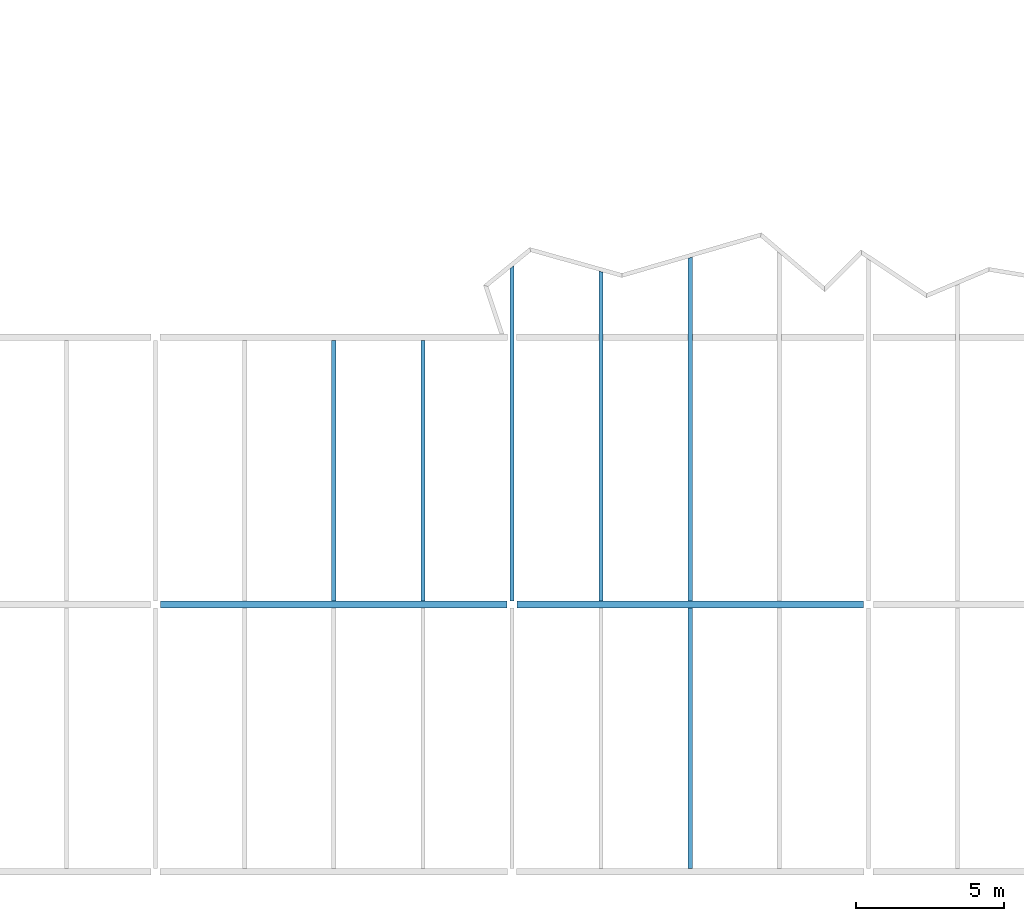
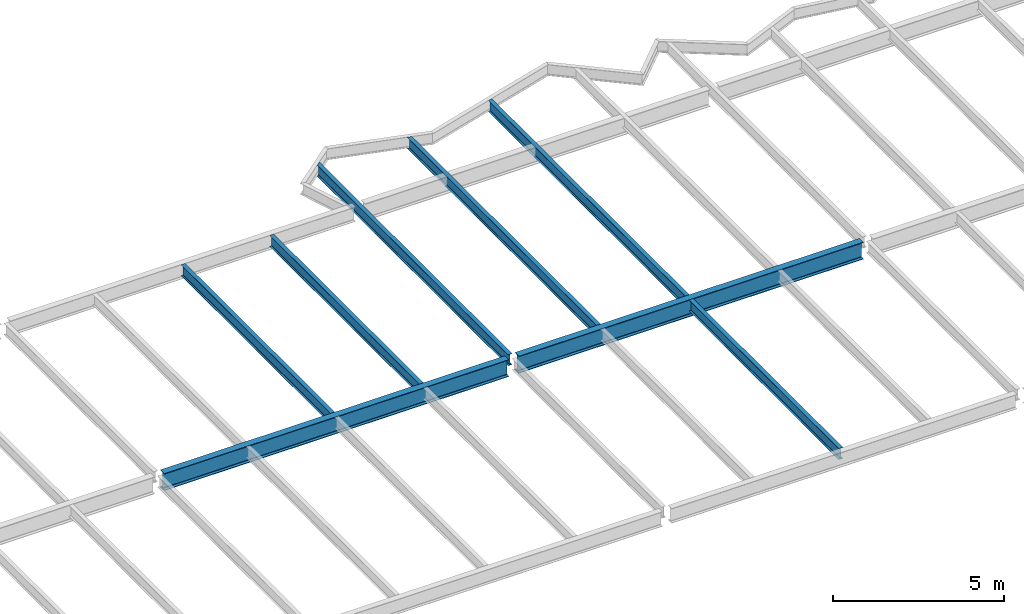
# One storey, part 16 of 21: 8 beams.
"""IFC2X3 building model written with IfcOpenShell, lengths in millimetres."""

from ifc_helpers import new_model, si_unit, origin, place, context, project, spatial, faceted_brep, material, element, save


model = new_model("IFC2X3")

# Units and contexts
context_of_model = context(None, 3, precision=1e-05, world=origin())
ifc_project = project(units=[si_unit("LENGTHUNIT", "METRE", prefix="MILLI")], contexts=[context_of_model])

# Building, storey
building = spatial("IfcBuilding", under=ifc_project, Name="Building", CompositionType="ELEMENT")
storey = spatial("IfcBuildingStorey", under=building, Name="FL3-FRM", CompositionType="ELEMENT")

# Beams
ifc_material_1 = material(Name="A992")
beam_1_placement = place(None, origin())
element("IfcBeam", 1, at=beam_1_placement, inside=storey, material=ifc_material_1, Name="B472", context=context_of_model, shape_type="Brep", body=[
    faceted_brep([(53930.0, 26895.5, 8474.0), (54070.0, 26895.5, 8474.0), (54070.0, 18114.5, 8474.0), (53930.0, 18114.5, 8474.0), (54070.0, 26895.5, 8482.8), (54070.0, 18114.5, 8482.8), (54013.4, 26895.5, 8482.8), (54013.4, 18114.5, 8482.8), (54010.8, 26895.5, 8483.15), (54010.8, 18114.5, 8483.15), (54008.3, 26895.5, 8484.17), (54008.3, 18114.5, 8484.17), (54006.2, 26895.5, 8485.79), (54006.2, 18114.5, 8485.79), (54004.6, 26895.5, 8487.9), (54004.6, 18114.5, 8487.9), (54003.5, 26895.5, 8490.36), (54003.5, 18114.5, 8490.36), (54003.2, 26895.5, 8493.0), (54003.2, 18114.5, 8493.0), (54003.2, 26895.5, 8854.0), (54003.2, 18114.5, 8854.0), (54003.5, 26895.5, 8856.64), (54003.5, 18114.5, 8856.64), (54004.6, 26895.5, 8859.1), (54004.6, 18114.5, 8859.1), (54006.2, 26895.5, 8861.21), (54006.2, 18114.5, 8861.21), (54008.3, 26895.5, 8862.83), (54008.3, 18114.5, 8862.83), (54010.8, 26895.5, 8863.85), (54010.8, 18114.5, 8863.85), (54013.4, 26895.5, 8864.2), (54013.4, 18114.5, 8864.2), (54070.0, 26895.5, 8864.2), (54070.0, 18114.5, 8864.2), (54070.0, 26895.5, 8873.0), (54070.0, 18114.5, 8873.0), (53930.0, 26895.5, 8873.0), (53930.0, 18114.5, 8873.0), (53930.0, 26895.5, 8864.2), (53930.0, 18114.5, 8864.2), (53986.6, 26895.5, 8864.2), (53986.6, 18114.5, 8864.2), (53989.2, 26895.5, 8863.85), (53989.2, 18114.5, 8863.85), (53991.7, 26895.5, 8862.83), (53991.7, 18114.5, 8862.83), (53993.8, 26895.5, 8861.21), (53993.8, 18114.5, 8861.21), (53995.4, 26895.5, 8859.1), (53995.4, 18114.5, 8859.1), (53996.5, 26895.5, 8856.64), (53996.5, 18114.5, 8856.64), (53996.8, 26895.5, 8854.0), (53996.8, 18114.5, 8854.0), (53996.8, 26895.5, 8493.0), (53996.8, 18114.5, 8493.0), (53996.5, 26895.5, 8490.36), (53996.5, 18114.5, 8490.36), (53995.4, 26895.5, 8487.9), (53995.4, 18114.5, 8487.9), (53993.8, 26895.5, 8485.79), (53993.8, 18114.5, 8485.79), (53991.7, 26895.5, 8484.17), (53991.7, 18114.5, 8484.17), (53989.2, 26895.5, 8483.15), (53989.2, 18114.5, 8483.15), (53986.6, 26895.5, 8482.8), (53986.6, 18114.5, 8482.8), (53930.0, 26895.5, 8482.8), (53930.0, 18114.5, 8482.8)], [[[0, 1, 2, 3]], [[1, 4, 5, 2]], [[4, 6, 7, 5]], [[6, 8, 9, 7]], [[8, 10, 11, 9]], [[10, 12, 13, 11]], [[12, 14, 15, 13]], [[14, 16, 17, 15]], [[16, 18, 19, 17]], [[18, 20, 21, 19]], [[20, 22, 23, 21]], [[22, 24, 25, 23]], [[24, 26, 27, 25]], [[26, 28, 29, 27]], [[28, 30, 31, 29]], [[30, 32, 33, 31]], [[32, 34, 35, 33]], [[34, 36, 37, 35]], [[36, 38, 39, 37]], [[38, 40, 41, 39]], [[40, 42, 43, 41]], [[42, 44, 45, 43]], [[44, 46, 47, 45]], [[46, 48, 49, 47]], [[48, 50, 51, 49]], [[50, 52, 53, 51]], [[52, 54, 55, 53]], [[54, 56, 57, 55]], [[56, 58, 59, 57]], [[58, 60, 61, 59]], [[60, 62, 63, 61]], [[62, 64, 65, 63]], [[64, 66, 67, 65]], [[66, 68, 69, 67]], [[68, 70, 71, 69]], [[70, 0, 3, 71]], [[0, 70, 68, 66, 64, 62, 60, 58, 56, 54, 52, 50, 48, 46, 44, 42, 40, 38, 36, 34, 32, 30, 28, 26, 24, 22, 20, 18, 16, 14, 12, 10, 8, 6, 4, 1]], [[3, 2, 5, 7, 9, 11, 13, 15, 17, 19, 21, 23, 25, 27, 29, 31, 33, 35, 37, 39, 41, 43, 45, 47, 49, 51, 53, 55, 57, 59, 61, 63, 65, 67, 69, 71]]]),
])
ifc_material_2 = material(Name="A992")
beam_2_placement = place(None, origin())
element("IfcBeam", 2, at=beam_2_placement, inside=storey, material=ifc_material_2, Name="B473", context=context_of_model, shape_type="Brep", body=[
    faceted_brep([(56930.0, 26895.5, 8474.0), (57070.0, 26895.5, 8474.0), (57070.0, 18114.5, 8474.0), (56930.0, 18114.5, 8474.0), (57070.0, 26895.5, 8482.8), (57070.0, 18114.5, 8482.8), (57013.4, 26895.5, 8482.8), (57013.4, 18114.5, 8482.8), (57010.8, 26895.5, 8483.15), (57010.8, 18114.5, 8483.15), (57008.3, 26895.5, 8484.17), (57008.3, 18114.5, 8484.17), (57006.2, 26895.5, 8485.79), (57006.2, 18114.5, 8485.79), (57004.6, 26895.5, 8487.9), (57004.6, 18114.5, 8487.9), (57003.5, 26895.5, 8490.36), (57003.5, 18114.5, 8490.36), (57003.2, 26895.5, 8493.0), (57003.2, 18114.5, 8493.0), (57003.2, 26895.5, 8854.0), (57003.2, 18114.5, 8854.0), (57003.5, 26895.5, 8856.64), (57003.5, 18114.5, 8856.64), (57004.6, 26895.5, 8859.1), (57004.6, 18114.5, 8859.1), (57006.2, 26895.5, 8861.21), (57006.2, 18114.5, 8861.21), (57008.3, 26895.5, 8862.83), (57008.3, 18114.5, 8862.83), (57010.8, 26895.5, 8863.85), (57010.8, 18114.5, 8863.85), (57013.4, 26895.5, 8864.2), (57013.4, 18114.5, 8864.2), (57070.0, 26895.5, 8864.2), (57070.0, 18114.5, 8864.2), (57070.0, 26895.5, 8873.0), (57070.0, 18114.5, 8873.0), (56930.0, 26895.5, 8873.0), (56930.0, 18114.5, 8873.0), (56930.0, 26895.5, 8864.2), (56930.0, 18114.5, 8864.2), (56986.6, 26895.5, 8864.2), (56986.6, 18114.5, 8864.2), (56989.2, 26895.5, 8863.85), (56989.2, 18114.5, 8863.85), (56991.7, 26895.5, 8862.83), (56991.7, 18114.5, 8862.83), (56993.8, 26895.5, 8861.21), (56993.8, 18114.5, 8861.21), (56995.4, 26895.5, 8859.1), (56995.4, 18114.5, 8859.1), (56996.5, 26895.5, 8856.64), (56996.5, 18114.5, 8856.64), (56996.8, 26895.5, 8854.0), (56996.8, 18114.5, 8854.0), (56996.8, 26895.5, 8493.0), (56996.8, 18114.5, 8493.0), (56996.5, 26895.5, 8490.36), (56996.5, 18114.5, 8490.36), (56995.4, 26895.5, 8487.9), (56995.4, 18114.5, 8487.9), (56993.8, 26895.5, 8485.79), (56993.8, 18114.5, 8485.79), (56991.7, 26895.5, 8484.17), (56991.7, 18114.5, 8484.17), (56989.2, 26895.5, 8483.15), (56989.2, 18114.5, 8483.15), (56986.6, 26895.5, 8482.8), (56986.6, 18114.5, 8482.8), (56930.0, 26895.5, 8482.8), (56930.0, 18114.5, 8482.8)], [[[0, 1, 2, 3]], [[1, 4, 5, 2]], [[4, 6, 7, 5]], [[6, 8, 9, 7]], [[8, 10, 11, 9]], [[10, 12, 13, 11]], [[12, 14, 15, 13]], [[14, 16, 17, 15]], [[16, 18, 19, 17]], [[18, 20, 21, 19]], [[20, 22, 23, 21]], [[22, 24, 25, 23]], [[24, 26, 27, 25]], [[26, 28, 29, 27]], [[28, 30, 31, 29]], [[30, 32, 33, 31]], [[32, 34, 35, 33]], [[34, 36, 37, 35]], [[36, 38, 39, 37]], [[38, 40, 41, 39]], [[40, 42, 43, 41]], [[42, 44, 45, 43]], [[44, 46, 47, 45]], [[46, 48, 49, 47]], [[48, 50, 51, 49]], [[50, 52, 53, 51]], [[52, 54, 55, 53]], [[54, 56, 57, 55]], [[56, 58, 59, 57]], [[58, 60, 61, 59]], [[60, 62, 63, 61]], [[62, 64, 65, 63]], [[64, 66, 67, 65]], [[66, 68, 69, 67]], [[68, 70, 71, 69]], [[70, 0, 3, 71]], [[0, 70, 68, 66, 64, 62, 60, 58, 56, 54, 52, 50, 48, 46, 44, 42, 40, 38, 36, 34, 32, 30, 28, 26, 24, 22, 20, 18, 16, 14, 12, 10, 8, 6, 4, 1]], [[3, 2, 5, 7, 9, 11, 13, 15, 17, 19, 21, 23, 25, 27, 29, 31, 33, 35, 37, 39, 41, 43, 45, 47, 49, 51, 53, 55, 57, 59, 61, 63, 65, 67, 69, 71]]]),
])
ifc_material_3 = material(Name="A992")
beam_3_placement = place(None, origin())
element("IfcBeam", 3, at=beam_3_placement, inside=storey, material=ifc_material_3, Name="Column478", context=context_of_model, shape_type="Brep", body=[
    faceted_brep([(48166.5, 17885.5, 8261.0), (48166.5, 18114.5, 8261.0), (59833.5, 18114.5, 8261.0), (59833.5, 17885.5, 8261.0), (48166.5, 18114.5, 8280.6), (59833.5, 18114.5, 8280.6), (48166.5, 18018.6, 8280.6), (59833.5, 18018.6, 8280.6), (48166.5, 18015.4, 8281.03), (59833.5, 18015.4, 8281.03), (48166.5, 18012.3, 8282.3), (59833.5, 18012.3, 8282.3), (48166.5, 18009.7, 8284.32), (59833.5, 18009.7, 8284.32), (48166.5, 18007.7, 8286.95), (59833.5, 18007.7, 8286.95), (48166.5, 18006.4, 8290.01), (59833.5, 18006.4, 8290.01), (48166.5, 18005.9, 8293.3), (59833.5, 18005.9, 8293.3), (48166.5, 18005.9, 8840.7), (59833.5, 18005.9, 8840.7), (48166.5, 18006.4, 8843.99), (59833.5, 18006.4, 8843.99), (48166.5, 18007.7, 8847.05), (59833.5, 18007.7, 8847.05), (48166.5, 18009.7, 8849.68), (59833.5, 18009.7, 8849.68), (48166.5, 18012.3, 8851.7), (59833.5, 18012.3, 8851.7), (48166.5, 18015.4, 8852.97), (59833.5, 18015.4, 8852.97), (48166.5, 18018.6, 8853.4), (59833.5, 18018.6, 8853.4), (48166.5, 18114.5, 8853.4), (59833.5, 18114.5, 8853.4), (48166.5, 18114.5, 8873.0), (59833.5, 18114.5, 8873.0), (48166.5, 17885.5, 8873.0), (59833.5, 17885.5, 8873.0), (48166.5, 17885.5, 8853.4), (59833.5, 17885.5, 8853.4), (48166.5, 17981.4, 8853.4), (59833.5, 17981.4, 8853.4), (48166.5, 17984.6, 8852.97), (59833.5, 17984.6, 8852.97), (48166.5, 17987.7, 8851.7), (59833.5, 17987.7, 8851.7), (48166.5, 17990.3, 8849.68), (59833.5, 17990.3, 8849.68), (48166.5, 17992.3, 8847.05), (59833.5, 17992.3, 8847.05), (48166.5, 17993.6, 8843.99), (59833.5, 17993.6, 8843.99), (48166.5, 17994.1, 8840.7), (59833.5, 17994.1, 8840.7), (48166.5, 17994.1, 8293.3), (59833.5, 17994.1, 8293.3), (48166.5, 17993.6, 8290.01), (59833.5, 17993.6, 8290.01), (48166.5, 17992.3, 8286.95), (59833.5, 17992.3, 8286.95), (48166.5, 17990.3, 8284.32), (59833.5, 17990.3, 8284.32), (48166.5, 17987.7, 8282.3), (59833.5, 17987.7, 8282.3), (48166.5, 17984.6, 8281.03), (59833.5, 17984.6, 8281.03), (48166.5, 17981.4, 8280.6), (59833.5, 17981.4, 8280.6), (48166.5, 17885.5, 8280.6), (59833.5, 17885.5, 8280.6)], [[[0, 1, 2, 3]], [[1, 4, 5, 2]], [[4, 6, 7, 5]], [[6, 8, 9, 7]], [[8, 10, 11, 9]], [[10, 12, 13, 11]], [[12, 14, 15, 13]], [[14, 16, 17, 15]], [[16, 18, 19, 17]], [[18, 20, 21, 19]], [[20, 22, 23, 21]], [[22, 24, 25, 23]], [[24, 26, 27, 25]], [[26, 28, 29, 27]], [[28, 30, 31, 29]], [[30, 32, 33, 31]], [[32, 34, 35, 33]], [[34, 36, 37, 35]], [[36, 38, 39, 37]], [[38, 40, 41, 39]], [[40, 42, 43, 41]], [[42, 44, 45, 43]], [[44, 46, 47, 45]], [[46, 48, 49, 47]], [[48, 50, 51, 49]], [[50, 52, 53, 51]], [[52, 54, 55, 53]], [[54, 56, 57, 55]], [[56, 58, 59, 57]], [[58, 60, 61, 59]], [[60, 62, 63, 61]], [[62, 64, 65, 63]], [[64, 66, 67, 65]], [[66, 68, 69, 67]], [[68, 70, 71, 69]], [[70, 0, 3, 71]], [[0, 70, 68, 66, 64, 62, 60, 58, 56, 54, 52, 50, 48, 46, 44, 42, 40, 38, 36, 34, 32, 30, 28, 26, 24, 22, 20, 18, 16, 14, 12, 10, 8, 6, 4, 1]], [[3, 2, 5, 7, 9, 11, 13, 15, 17, 19, 21, 23, 25, 27, 29, 31, 33, 35, 37, 39, 41, 43, 45, 47, 49, 51, 53, 55, 57, 59, 61, 63, 65, 67, 69, 71]]]),
])
ifc_material_4 = material(Name="A992")
beam_4_placement = place(None, origin())
element("IfcBeam", 4, at=beam_4_placement, inside=storey, material=ifc_material_4, Name="B484", context=context_of_model, shape_type="Brep", body=[
    faceted_brep([(66070.0, 9104.5, 8474.0), (65930.0, 9104.5, 8474.0), (65930.0, 17885.5, 8474.0), (66070.0, 17885.5, 8474.0), (65930.0, 9104.5, 8482.8), (65930.0, 17885.5, 8482.8), (65986.6, 9104.5, 8482.8), (65986.6, 17885.5, 8482.8), (65989.2, 9104.5, 8483.15), (65989.2, 17885.5, 8483.15), (65991.7, 9104.5, 8484.17), (65991.7, 17885.5, 8484.17), (65993.8, 9104.5, 8485.79), (65993.8, 17885.5, 8485.79), (65995.4, 9104.5, 8487.9), (65995.4, 17885.5, 8487.9), (65996.5, 9104.5, 8490.36), (65996.5, 17885.5, 8490.36), (65996.8, 9104.5, 8493.0), (65996.8, 17885.5, 8493.0), (65996.8, 9104.5, 8854.0), (65996.8, 17885.5, 8854.0), (65996.5, 9104.5, 8856.64), (65996.5, 17885.5, 8856.64), (65995.4, 9104.5, 8859.1), (65995.4, 17885.5, 8859.1), (65993.8, 9104.5, 8861.21), (65993.8, 17885.5, 8861.21), (65991.7, 9104.5, 8862.83), (65991.7, 17885.5, 8862.83), (65989.2, 9104.5, 8863.85), (65989.2, 17885.5, 8863.85), (65986.6, 9104.5, 8864.2), (65986.6, 17885.5, 8864.2), (65930.0, 9104.5, 8864.2), (65930.0, 17885.5, 8864.2), (65930.0, 9104.5, 8873.0), (65930.0, 17885.5, 8873.0), (66070.0, 9104.5, 8873.0), (66070.0, 17885.5, 8873.0), (66070.0, 9104.5, 8864.2), (66070.0, 17885.5, 8864.2), (66013.4, 9104.5, 8864.2), (66013.4, 17885.5, 8864.2), (66010.8, 9104.5, 8863.85), (66010.8, 17885.5, 8863.85), (66008.3, 9104.5, 8862.83), (66008.3, 17885.5, 8862.83), (66006.2, 9104.5, 8861.21), (66006.2, 17885.5, 8861.21), (66004.6, 9104.5, 8859.1), (66004.6, 17885.5, 8859.1), (66003.5, 9104.5, 8856.64), (66003.5, 17885.5, 8856.64), (66003.2, 9104.5, 8854.0), (66003.2, 17885.5, 8854.0), (66003.2, 9104.5, 8493.0), (66003.2, 17885.5, 8493.0), (66003.5, 9104.5, 8490.36), (66003.5, 17885.5, 8490.36), (66004.6, 9104.5, 8487.9), (66004.6, 17885.5, 8487.9), (66006.2, 9104.5, 8485.79), (66006.2, 17885.5, 8485.79), (66008.3, 9104.5, 8484.17), (66008.3, 17885.5, 8484.17), (66010.8, 9104.5, 8483.15), (66010.8, 17885.5, 8483.15), (66013.4, 9104.5, 8482.8), (66013.4, 17885.5, 8482.8), (66070.0, 9104.5, 8482.8), (66070.0, 17885.5, 8482.8)], [[[0, 1, 2, 3]], [[1, 4, 5, 2]], [[4, 6, 7, 5]], [[6, 8, 9, 7]], [[8, 10, 11, 9]], [[10, 12, 13, 11]], [[12, 14, 15, 13]], [[14, 16, 17, 15]], [[16, 18, 19, 17]], [[18, 20, 21, 19]], [[20, 22, 23, 21]], [[22, 24, 25, 23]], [[24, 26, 27, 25]], [[26, 28, 29, 27]], [[28, 30, 31, 29]], [[30, 32, 33, 31]], [[32, 34, 35, 33]], [[34, 36, 37, 35]], [[36, 38, 39, 37]], [[38, 40, 41, 39]], [[40, 42, 43, 41]], [[42, 44, 45, 43]], [[44, 46, 47, 45]], [[46, 48, 49, 47]], [[48, 50, 51, 49]], [[50, 52, 53, 51]], [[52, 54, 55, 53]], [[54, 56, 57, 55]], [[56, 58, 59, 57]], [[58, 60, 61, 59]], [[60, 62, 63, 61]], [[62, 64, 65, 63]], [[64, 66, 67, 65]], [[66, 68, 69, 67]], [[68, 70, 71, 69]], [[70, 0, 3, 71]], [[0, 70, 68, 66, 64, 62, 60, 58, 56, 54, 52, 50, 48, 46, 44, 42, 40, 38, 36, 34, 32, 30, 28, 26, 24, 22, 20, 18, 16, 14, 12, 10, 8, 6, 4, 1]], [[3, 2, 5, 7, 9, 11, 13, 15, 17, 19, 21, 23, 25, 27, 29, 31, 33, 35, 37, 39, 41, 43, 45, 47, 49, 51, 53, 55, 57, 59, 61, 63, 65, 67, 69, 71]]]),
])
ifc_material_5 = material(Name="A992")
beam_5_placement = place(None, origin())
element("IfcBeam", 5, at=beam_5_placement, inside=storey, material=ifc_material_5, Name="Column481", context=context_of_model, shape_type="Brep", body=[
    faceted_brep([(60166.5, 17885.5, 8261.0), (60166.5, 18114.5, 8261.0), (71833.5, 18114.5, 8261.0), (71833.5, 17885.5, 8261.0), (60166.5, 18114.5, 8280.6), (71833.5, 18114.5, 8280.6), (60166.5, 18018.6, 8280.6), (71833.5, 18018.6, 8280.6), (60166.5, 18015.4, 8281.03), (71833.5, 18015.4, 8281.03), (60166.5, 18012.3, 8282.3), (71833.5, 18012.3, 8282.3), (60166.5, 18009.7, 8284.32), (71833.5, 18009.7, 8284.32), (60166.5, 18007.7, 8286.95), (71833.5, 18007.7, 8286.95), (60166.5, 18006.4, 8290.01), (71833.5, 18006.4, 8290.01), (60166.5, 18005.9, 8293.3), (71833.5, 18005.9, 8293.3), (60166.5, 18005.9, 8840.7), (71833.5, 18005.9, 8840.7), (60166.5, 18006.4, 8843.99), (71833.5, 18006.4, 8843.99), (60166.5, 18007.7, 8847.05), (71833.5, 18007.7, 8847.05), (60166.5, 18009.7, 8849.68), (71833.5, 18009.7, 8849.68), (60166.5, 18012.3, 8851.7), (71833.5, 18012.3, 8851.7), (60166.5, 18015.4, 8852.97), (71833.5, 18015.4, 8852.97), (60166.5, 18018.6, 8853.4), (71833.5, 18018.6, 8853.4), (60166.5, 18114.5, 8853.4), (71833.5, 18114.5, 8853.4), (60166.5, 18114.5, 8873.0), (71833.5, 18114.5, 8873.0), (60166.5, 17885.5, 8873.0), (71833.5, 17885.5, 8873.0), (60166.5, 17885.5, 8853.4), (71833.5, 17885.5, 8853.4), (60166.5, 17981.4, 8853.4), (71833.5, 17981.4, 8853.4), (60166.5, 17984.6, 8852.97), (71833.5, 17984.6, 8852.97), (60166.5, 17987.7, 8851.7), (71833.5, 17987.7, 8851.7), (60166.5, 17990.3, 8849.68), (71833.5, 17990.3, 8849.68), (60166.5, 17992.3, 8847.05), (71833.5, 17992.3, 8847.05), (60166.5, 17993.6, 8843.99), (71833.5, 17993.6, 8843.99), (60166.5, 17994.1, 8840.7), (71833.5, 17994.1, 8840.7), (60166.5, 17994.1, 8293.3), (71833.5, 17994.1, 8293.3), (60166.5, 17993.6, 8290.01), (71833.5, 17993.6, 8290.01), (60166.5, 17992.3, 8286.95), (71833.5, 17992.3, 8286.95), (60166.5, 17990.3, 8284.32), (71833.5, 17990.3, 8284.32), (60166.5, 17987.7, 8282.3), (71833.5, 17987.7, 8282.3), (60166.5, 17984.6, 8281.03), (71833.5, 17984.6, 8281.03), (60166.5, 17981.4, 8280.6), (71833.5, 17981.4, 8280.6), (60166.5, 17885.5, 8280.6), (71833.5, 17885.5, 8280.6)], [[[0, 1, 2, 3]], [[1, 4, 5, 2]], [[4, 6, 7, 5]], [[6, 8, 9, 7]], [[8, 10, 11, 9]], [[10, 12, 13, 11]], [[12, 14, 15, 13]], [[14, 16, 17, 15]], [[16, 18, 19, 17]], [[18, 20, 21, 19]], [[20, 22, 23, 21]], [[22, 24, 25, 23]], [[24, 26, 27, 25]], [[26, 28, 29, 27]], [[28, 30, 31, 29]], [[30, 32, 33, 31]], [[32, 34, 35, 33]], [[34, 36, 37, 35]], [[36, 38, 39, 37]], [[38, 40, 41, 39]], [[40, 42, 43, 41]], [[42, 44, 45, 43]], [[44, 46, 47, 45]], [[46, 48, 49, 47]], [[48, 50, 51, 49]], [[50, 52, 53, 51]], [[52, 54, 55, 53]], [[54, 56, 57, 55]], [[56, 58, 59, 57]], [[58, 60, 61, 59]], [[60, 62, 63, 61]], [[62, 64, 65, 63]], [[64, 66, 67, 65]], [[66, 68, 69, 67]], [[68, 70, 71, 69]], [[70, 0, 3, 71]], [[0, 70, 68, 66, 64, 62, 60, 58, 56, 54, 52, 50, 48, 46, 44, 42, 40, 38, 36, 34, 32, 30, 28, 26, 24, 22, 20, 18, 16, 14, 12, 10, 8, 6, 4, 1]], [[3, 2, 5, 7, 9, 11, 13, 15, 17, 19, 21, 23, 25, 27, 29, 31, 33, 35, 37, 39, 41, 43, 45, 47, 49, 51, 53, 55, 57, 59, 61, 63, 65, 67, 69, 71]]]),
])
ifc_material_6 = material(Name="A992")
beam_6_placement = place(None, origin())
element("IfcBeam", 6, at=beam_6_placement, inside=storey, material=ifc_material_6, Name="B1055", context=context_of_model, shape_type="Brep", body=[
    faceted_brep([(65930.0, 29656.7, 8474.0), (66070.0, 29697.5, 8474.0), (66070.0, 18114.5, 8474.0), (65930.0, 18114.5, 8474.0), (66070.0, 29697.5, 8482.8), (66070.0, 18114.5, 8482.8), (66013.4, 29681.0, 8482.8), (66013.4, 18114.5, 8482.8), (66012.0, 29680.6, 8482.9), (66011.9, 18114.5, 8482.9), (66010.5, 29680.2, 8483.21), (66010.5, 18114.5, 8483.21), (66009.2, 29679.8, 8483.72), (66009.2, 18114.5, 8483.72), (66007.9, 29679.4, 8484.42), (66007.9, 18114.5, 8484.42), (66006.7, 29679.0, 8485.29), (66006.7, 18114.5, 8485.29), (66005.7, 29678.7, 8486.32), (66005.7, 18114.5, 8486.32), (66004.8, 29678.5, 8487.48), (66004.8, 18114.5, 8487.49), (66004.1, 29678.3, 8488.76), (66004.1, 18114.5, 8488.76), (66003.6, 29678.1, 8490.12), (66003.6, 18114.5, 8490.13), (66003.3, 29678.0, 8491.55), (66003.3, 18114.5, 8491.55), (66003.2, 29678.0, 8493.0), (66003.2, 18114.5, 8493.0), (66003.2, 29678.0, 8854.0), (66003.2, 18114.5, 8854.0), (66003.3, 29678.0, 8855.45), (66003.3, 18114.5, 8855.45), (66003.6, 29678.1, 8856.88), (66003.6, 18114.5, 8856.87), (66004.1, 29678.3, 8858.24), (66004.1, 18114.5, 8858.24), (66004.8, 29678.5, 8859.52), (66004.8, 18114.5, 8859.51), (66005.7, 29678.7, 8860.68), (66005.7, 18114.5, 8860.68), (66006.7, 29679.0, 8861.71), (66006.7, 18114.5, 8861.71), (66007.9, 29679.4, 8862.58), (66007.9, 18114.5, 8862.58), (66009.2, 29679.8, 8863.28), (66009.2, 18114.5, 8863.28), (66010.5, 29680.2, 8863.79), (66010.5, 18114.5, 8863.79), (66012.0, 29680.6, 8864.1), (66011.9, 18114.5, 8864.1), (66013.4, 29681.0, 8864.2), (66013.4, 18114.5, 8864.2), (66070.0, 29697.5, 8864.2), (66070.0, 18114.5, 8864.2), (66070.0, 29697.5, 8873.0), (66070.0, 18114.5, 8873.0), (65930.0, 29656.7, 8873.0), (65930.0, 18114.5, 8873.0), (65930.0, 29656.7, 8864.2), (65930.0, 18114.5, 8864.2), (65986.6, 29673.2, 8864.2), (65986.6, 18114.5, 8864.2), (65988.0, 29673.6, 8864.1), (65988.1, 18114.5, 8864.1), (65989.5, 29674.0, 8863.79), (65989.5, 18114.5, 8863.79), (65990.8, 29674.4, 8863.28), (65990.8, 18114.5, 8863.28), (65992.1, 29674.8, 8862.58), (65992.1, 18114.5, 8862.58), (65993.3, 29675.1, 8861.71), (65993.3, 18114.5, 8861.71), (65994.3, 29675.4, 8860.68), (65994.3, 18114.5, 8860.68), (65995.2, 29675.7, 8859.52), (65995.2, 18114.5, 8859.51), (65995.9, 29675.9, 8858.24), (65995.9, 18114.5, 8858.24), (65996.4, 29676.0, 8856.88), (65996.4, 18114.5, 8856.87), (65996.7, 29676.1, 8855.45), (65996.7, 18114.5, 8855.45), (65996.8, 29676.1, 8854.0), (65996.8, 18114.5, 8854.0), (65996.8, 29676.1, 8493.0), (65996.8, 18114.5, 8493.0), (65996.7, 29676.1, 8491.55), (65996.7, 18114.5, 8491.55), (65996.4, 29676.0, 8490.12), (65996.4, 18114.5, 8490.13), (65995.9, 29675.9, 8488.76), (65995.9, 18114.5, 8488.76), (65995.2, 29675.7, 8487.48), (65995.2, 18114.5, 8487.49), (65994.3, 29675.4, 8486.32), (65994.3, 18114.5, 8486.32), (65993.3, 29675.1, 8485.29), (65993.3, 18114.5, 8485.29), (65992.1, 29674.8, 8484.42), (65992.1, 18114.5, 8484.42), (65990.8, 29674.4, 8483.72), (65990.8, 18114.5, 8483.72), (65989.5, 29674.0, 8483.21), (65989.5, 18114.5, 8483.21), (65988.0, 29673.6, 8482.9), (65988.1, 18114.5, 8482.9), (65986.6, 29673.2, 8482.8), (65986.6, 18114.5, 8482.8), (65930.0, 29656.7, 8482.8), (65930.0, 18114.5, 8482.8)], [[[0, 1, 2, 3]], [[1, 4, 5, 2]], [[4, 6, 7, 5]], [[6, 8, 9, 7]], [[8, 10, 11, 9]], [[10, 12, 13, 11]], [[12, 14, 15, 13]], [[14, 16, 17, 15]], [[16, 18, 19, 17]], [[18, 20, 21, 19]], [[20, 22, 23, 21]], [[22, 24, 25, 23]], [[24, 26, 27, 25]], [[26, 28, 29, 27]], [[28, 30, 31, 29]], [[30, 32, 33, 31]], [[32, 34, 35, 33]], [[34, 36, 37, 35]], [[36, 38, 39, 37]], [[38, 40, 41, 39]], [[40, 42, 43, 41]], [[42, 44, 45, 43]], [[44, 46, 47, 45]], [[46, 48, 49, 47]], [[48, 50, 51, 49]], [[50, 52, 53, 51]], [[52, 54, 55, 53]], [[54, 56, 57, 55]], [[56, 58, 59, 57]], [[58, 60, 61, 59]], [[60, 62, 63, 61]], [[62, 64, 65, 63]], [[64, 66, 67, 65]], [[66, 68, 69, 67]], [[68, 70, 71, 69]], [[70, 72, 73, 71]], [[72, 74, 75, 73]], [[74, 76, 77, 75]], [[76, 78, 79, 77]], [[78, 80, 81, 79]], [[80, 82, 83, 81]], [[82, 84, 85, 83]], [[84, 86, 87, 85]], [[86, 88, 89, 87]], [[88, 90, 91, 89]], [[90, 92, 93, 91]], [[92, 94, 95, 93]], [[94, 96, 97, 95]], [[96, 98, 99, 97]], [[98, 100, 101, 99]], [[100, 102, 103, 101]], [[102, 104, 105, 103]], [[104, 106, 107, 105]], [[106, 108, 109, 107]], [[108, 110, 111, 109]], [[110, 0, 3, 111]], [[0, 110, 108, 106, 104, 102, 100, 98, 96, 94, 92, 90, 88, 86, 84, 82, 80, 78, 76, 74, 72, 70, 68, 66, 64, 62, 60, 58, 56, 54, 52, 50, 48, 46, 44, 42, 40, 38, 36, 34, 32, 30, 28, 26, 24, 22, 20, 18, 16, 14, 12, 10, 8, 6, 4, 1]], [[3, 2, 5, 7, 9, 11, 13, 15, 17, 19, 21, 23, 25, 27, 29, 31, 33, 35, 37, 39, 41, 43, 45, 47, 49, 51, 53, 55, 57, 59, 61, 63, 65, 67, 69, 71, 73, 75, 77, 79, 81, 83, 85, 87, 89, 91, 93, 95, 97, 99, 101, 103, 105, 107, 109, 111]]]),
])
ifc_material_7 = material(Name="A992")
beam_7_placement = place(None, origin())
element("IfcBeam", 7, at=beam_7_placement, inside=storey, material=ifc_material_7, Name="B1056", context=context_of_model, shape_type="Brep", body=[
    faceted_brep([(62930.0, 29224.4, 8474.0), (63070.0, 29185.1, 8474.0), (63070.0, 18114.5, 8474.0), (62930.0, 18114.5, 8474.0), (63070.0, 29185.1, 8482.8), (63070.0, 18114.5, 8482.8), (63013.4, 29201.0, 8482.8), (63013.4, 18114.5, 8482.8), (63012.0, 29201.4, 8482.9), (63011.9, 18114.5, 8482.9), (63010.5, 29201.8, 8483.21), (63010.5, 18114.5, 8483.21), (63009.2, 29202.2, 8483.72), (63009.2, 18114.5, 8483.72), (63007.9, 29202.5, 8484.42), (63007.9, 18114.5, 8484.42), (63006.7, 29202.9, 8485.29), (63006.7, 18114.5, 8485.29), (63005.7, 29203.2, 8486.32), (63005.7, 18114.5, 8486.32), (63004.8, 29203.4, 8487.48), (63004.8, 18114.5, 8487.49), (63004.1, 29203.6, 8488.76), (63004.1, 18114.5, 8488.76), (63003.6, 29203.7, 8490.12), (63003.6, 18114.5, 8490.13), (63003.3, 29203.8, 8491.55), (63003.3, 18114.5, 8491.55), (63003.2, 29203.9, 8493.0), (63003.2, 18114.5, 8493.0), (63003.2, 29203.9, 8854.0), (63003.2, 18114.5, 8854.0), (63003.3, 29203.8, 8855.45), (63003.3, 18114.5, 8855.45), (63003.6, 29203.7, 8856.88), (63003.6, 18114.5, 8856.87), (63004.1, 29203.6, 8858.24), (63004.1, 18114.5, 8858.24), (63004.8, 29203.4, 8859.52), (63004.8, 18114.5, 8859.51), (63005.7, 29203.2, 8860.68), (63005.7, 18114.5, 8860.68), (63006.7, 29202.9, 8861.71), (63006.7, 18114.5, 8861.71), (63007.9, 29202.5, 8862.58), (63007.9, 18114.5, 8862.58), (63009.2, 29202.2, 8863.28), (63009.2, 18114.5, 8863.28), (63010.5, 29201.8, 8863.79), (63010.5, 18114.5, 8863.79), (63012.0, 29201.4, 8864.1), (63011.9, 18114.5, 8864.1), (63013.4, 29201.0, 8864.2), (63013.4, 18114.5, 8864.2), (63070.0, 29185.1, 8864.2), (63070.0, 18114.5, 8864.2), (63070.0, 29185.1, 8873.0), (63070.0, 18114.5, 8873.0), (62930.0, 29224.4, 8873.0), (62930.0, 18114.5, 8873.0), (62930.0, 29224.4, 8864.2), (62930.0, 18114.5, 8864.2), (62986.6, 29208.5, 8864.2), (62986.6, 18114.5, 8864.2), (62988.0, 29208.1, 8864.1), (62988.1, 18114.5, 8864.1), (62989.5, 29207.7, 8863.79), (62989.5, 18114.5, 8863.79), (62990.8, 29207.3, 8863.28), (62990.8, 18114.5, 8863.28), (62992.1, 29207.0, 8862.58), (62992.1, 18114.5, 8862.58), (62993.3, 29206.7, 8861.71), (62993.3, 18114.5, 8861.71), (62994.3, 29206.4, 8860.68), (62994.3, 18114.5, 8860.68), (62995.2, 29206.1, 8859.52), (62995.2, 18114.5, 8859.51), (62995.9, 29205.9, 8858.24), (62995.9, 18114.5, 8858.24), (62996.4, 29205.8, 8856.88), (62996.4, 18114.5, 8856.87), (62996.7, 29205.7, 8855.45), (62996.7, 18114.5, 8855.45), (62996.8, 29205.7, 8854.0), (62996.8, 18114.5, 8854.0), (62996.8, 29205.7, 8493.0), (62996.8, 18114.5, 8493.0), (62996.7, 29205.7, 8491.55), (62996.7, 18114.5, 8491.55), (62996.4, 29205.8, 8490.12), (62996.4, 18114.5, 8490.13), (62995.9, 29205.9, 8488.76), (62995.9, 18114.5, 8488.76), (62995.2, 29206.1, 8487.48), (62995.2, 18114.5, 8487.49), (62994.3, 29206.4, 8486.32), (62994.3, 18114.5, 8486.32), (62993.3, 29206.7, 8485.29), (62993.3, 18114.5, 8485.29), (62992.1, 29207.0, 8484.42), (62992.1, 18114.5, 8484.42), (62990.8, 29207.3, 8483.72), (62990.8, 18114.5, 8483.72), (62989.5, 29207.7, 8483.21), (62989.5, 18114.5, 8483.21), (62988.0, 29208.1, 8482.9), (62988.1, 18114.5, 8482.9), (62986.6, 29208.5, 8482.8), (62986.6, 18114.5, 8482.8), (62930.0, 29224.4, 8482.8), (62930.0, 18114.5, 8482.8)], [[[0, 1, 2, 3]], [[1, 4, 5, 2]], [[4, 6, 7, 5]], [[6, 8, 9, 7]], [[8, 10, 11, 9]], [[10, 12, 13, 11]], [[12, 14, 15, 13]], [[14, 16, 17, 15]], [[16, 18, 19, 17]], [[18, 20, 21, 19]], [[20, 22, 23, 21]], [[22, 24, 25, 23]], [[24, 26, 27, 25]], [[26, 28, 29, 27]], [[28, 30, 31, 29]], [[30, 32, 33, 31]], [[32, 34, 35, 33]], [[34, 36, 37, 35]], [[36, 38, 39, 37]], [[38, 40, 41, 39]], [[40, 42, 43, 41]], [[42, 44, 45, 43]], [[44, 46, 47, 45]], [[46, 48, 49, 47]], [[48, 50, 51, 49]], [[50, 52, 53, 51]], [[52, 54, 55, 53]], [[54, 56, 57, 55]], [[56, 58, 59, 57]], [[58, 60, 61, 59]], [[60, 62, 63, 61]], [[62, 64, 65, 63]], [[64, 66, 67, 65]], [[66, 68, 69, 67]], [[68, 70, 71, 69]], [[70, 72, 73, 71]], [[72, 74, 75, 73]], [[74, 76, 77, 75]], [[76, 78, 79, 77]], [[78, 80, 81, 79]], [[80, 82, 83, 81]], [[82, 84, 85, 83]], [[84, 86, 87, 85]], [[86, 88, 89, 87]], [[88, 90, 91, 89]], [[90, 92, 93, 91]], [[92, 94, 95, 93]], [[94, 96, 97, 95]], [[96, 98, 99, 97]], [[98, 100, 101, 99]], [[100, 102, 103, 101]], [[102, 104, 105, 103]], [[104, 106, 107, 105]], [[106, 108, 109, 107]], [[108, 110, 111, 109]], [[110, 0, 3, 111]], [[0, 110, 108, 106, 104, 102, 100, 98, 96, 94, 92, 90, 88, 86, 84, 82, 80, 78, 76, 74, 72, 70, 68, 66, 64, 62, 60, 58, 56, 54, 52, 50, 48, 46, 44, 42, 40, 38, 36, 34, 32, 30, 28, 26, 24, 22, 20, 18, 16, 14, 12, 10, 8, 6, 4, 1]], [[3, 2, 5, 7, 9, 11, 13, 15, 17, 19, 21, 23, 25, 27, 29, 31, 33, 35, 37, 39, 41, 43, 45, 47, 49, 51, 53, 55, 57, 59, 61, 63, 65, 67, 69, 71, 73, 75, 77, 79, 81, 83, 85, 87, 89, 91, 93, 95, 97, 99, 101, 103, 105, 107, 109, 111]]]),
])
ifc_material_8 = material(Name="A992")
beam_8_placement = place(None, origin())
element("IfcBeam", 8, at=beam_8_placement, inside=storey, material=ifc_material_8, Name="B1060", context=context_of_model, shape_type="Brep", body=[
    faceted_brep([(60070.0, 18114.5, 8474.0), (59930.0, 18114.5, 8474.0), (59930.0, 29301.5, 8474.0), (60070.0, 29415.4, 8474.0), (59930.0, 18114.5, 8482.8), (59930.0, 29301.5, 8482.8), (59986.6, 18114.5, 8482.8), (59986.6, 29347.5, 8482.8), (59988.2, 18114.5, 8482.93), (59988.2, 29348.8, 8482.91), (59989.8, 18114.5, 8483.3), (59989.7, 29350.1, 8483.29), (59991.2, 18114.5, 8483.91), (59991.2, 29351.3, 8483.9), (59992.6, 18114.5, 8484.75), (59992.6, 29352.4, 8484.72), (59993.8, 18114.5, 8485.79), (59993.8, 29353.4, 8485.79), (59994.9, 18114.5, 8487.0), (59994.8, 29354.2, 8486.97), (59995.7, 18114.5, 8488.37), (59995.7, 29354.9, 8488.34), (59996.3, 18114.5, 8489.85), (59996.3, 29355.4, 8489.84), (59996.7, 18114.5, 8491.4), (59996.7, 29355.7, 8491.39), (59996.8, 18114.5, 8493.0), (59996.8, 29355.8, 8493.0), (59996.8, 18114.5, 8854.0), (59996.8, 29355.8, 8854.0), (59996.7, 18114.5, 8855.6), (59996.7, 29355.7, 8855.61), (59996.3, 18114.5, 8857.15), (59996.3, 29355.4, 8857.16), (59995.7, 18114.5, 8858.63), (59995.7, 29354.9, 8858.66), (59994.9, 18114.5, 8860.0), (59994.8, 29354.2, 8860.03), (59993.8, 18114.5, 8861.21), (59993.8, 29353.4, 8861.21), (59992.6, 18114.5, 8862.25), (59992.6, 29352.4, 8862.28), (59991.2, 18114.5, 8863.09), (59991.2, 29351.3, 8863.1), (59989.8, 18114.5, 8863.7), (59989.7, 29350.1, 8863.71), (59988.2, 18114.5, 8864.07), (59988.2, 29348.8, 8864.09), (59986.6, 18114.5, 8864.2), (59986.6, 29347.5, 8864.2), (59930.0, 18114.5, 8864.2), (59930.0, 29301.5, 8864.2), (59930.0, 18114.5, 8873.0), (59930.0, 29301.5, 8873.0), (60070.0, 18114.5, 8873.0), (60070.0, 29415.4, 8873.0), (60070.0, 18114.5, 8864.2), (60070.0, 29415.4, 8864.2), (60013.4, 18114.5, 8864.2), (60013.4, 29369.3, 8864.2), (60011.8, 18114.5, 8864.07), (60011.8, 29368.0, 8864.09), (60010.2, 18114.5, 8863.7), (60010.3, 29366.8, 8863.71), (60008.8, 18114.5, 8863.09), (60008.8, 29365.6, 8863.1), (60007.4, 18114.5, 8862.25), (60007.4, 29364.5, 8862.28), (60006.2, 18114.5, 8861.21), (60006.2, 29363.4, 8861.21), (60005.1, 18114.5, 8860.0), (60005.2, 29362.6, 8860.03), (60004.3, 18114.5, 8858.63), (60004.3, 29361.9, 8858.66), (60003.7, 18114.5, 8857.15), (60003.7, 29361.4, 8857.16), (60003.3, 18114.5, 8855.6), (60003.3, 29361.1, 8855.61), (60003.2, 18114.5, 8854.0), (60003.2, 29361.0, 8854.0), (60003.2, 18114.5, 8493.0), (60003.2, 29361.0, 8493.0), (60003.3, 18114.5, 8491.4), (60003.3, 29361.1, 8491.39), (60003.7, 18114.5, 8489.85), (60003.7, 29361.4, 8489.84), (60004.3, 18114.5, 8488.37), (60004.3, 29361.9, 8488.34), (60005.1, 18114.5, 8487.0), (60005.2, 29362.6, 8486.97), (60006.2, 18114.5, 8485.79), (60006.2, 29363.4, 8485.79), (60007.4, 18114.5, 8484.75), (60007.4, 29364.5, 8484.72), (60008.8, 18114.5, 8483.91), (60008.8, 29365.6, 8483.9), (60010.2, 18114.5, 8483.3), (60010.3, 29366.8, 8483.29), (60011.8, 18114.5, 8482.93), (60011.8, 29368.0, 8482.91), (60013.4, 18114.5, 8482.8), (60013.4, 29369.3, 8482.8), (60070.0, 18114.5, 8482.8), (60070.0, 29415.4, 8482.8)], [[[0, 1, 2, 3]], [[1, 4, 5, 2]], [[4, 6, 7, 5]], [[6, 8, 9, 7]], [[8, 10, 11, 9]], [[10, 12, 13, 11]], [[12, 14, 15, 13]], [[14, 16, 17, 15]], [[16, 18, 19, 17]], [[18, 20, 21, 19]], [[20, 22, 23, 21]], [[22, 24, 25, 23]], [[24, 26, 27, 25]], [[26, 28, 29, 27]], [[28, 30, 31, 29]], [[30, 32, 33, 31]], [[32, 34, 35, 33]], [[34, 36, 37, 35]], [[36, 38, 39, 37]], [[38, 40, 41, 39]], [[40, 42, 43, 41]], [[42, 44, 45, 43]], [[44, 46, 47, 45]], [[46, 48, 49, 47]], [[48, 50, 51, 49]], [[50, 52, 53, 51]], [[52, 54, 55, 53]], [[54, 56, 57, 55]], [[56, 58, 59, 57]], [[58, 60, 61, 59]], [[60, 62, 63, 61]], [[62, 64, 65, 63]], [[64, 66, 67, 65]], [[66, 68, 69, 67]], [[68, 70, 71, 69]], [[70, 72, 73, 71]], [[72, 74, 75, 73]], [[74, 76, 77, 75]], [[76, 78, 79, 77]], [[78, 80, 81, 79]], [[80, 82, 83, 81]], [[82, 84, 85, 83]], [[84, 86, 87, 85]], [[86, 88, 89, 87]], [[88, 90, 91, 89]], [[90, 92, 93, 91]], [[92, 94, 95, 93]], [[94, 96, 97, 95]], [[96, 98, 99, 97]], [[98, 100, 101, 99]], [[100, 102, 103, 101]], [[102, 0, 3, 103]], [[0, 102, 100, 98, 96, 94, 92, 90, 88, 86, 84, 82, 80, 78, 76, 74, 72, 70, 68, 66, 64, 62, 60, 58, 56, 54, 52, 50, 48, 46, 44, 42, 40, 38, 36, 34, 32, 30, 28, 26, 24, 22, 20, 18, 16, 14, 12, 10, 8, 6, 4, 1]], [[3, 2, 5, 7, 9, 11, 13, 15, 17, 19, 21, 23, 25, 27, 29, 31, 33, 35, 37, 39, 41, 43, 45, 47, 49, 51, 53, 55, 57, 59, 61, 63, 65, 67, 69, 71, 73, 75, 77, 79, 81, 83, 85, 87, 89, 91, 93, 95, 97, 99, 101, 103]]]),
])

save(model, "model.ifc")
